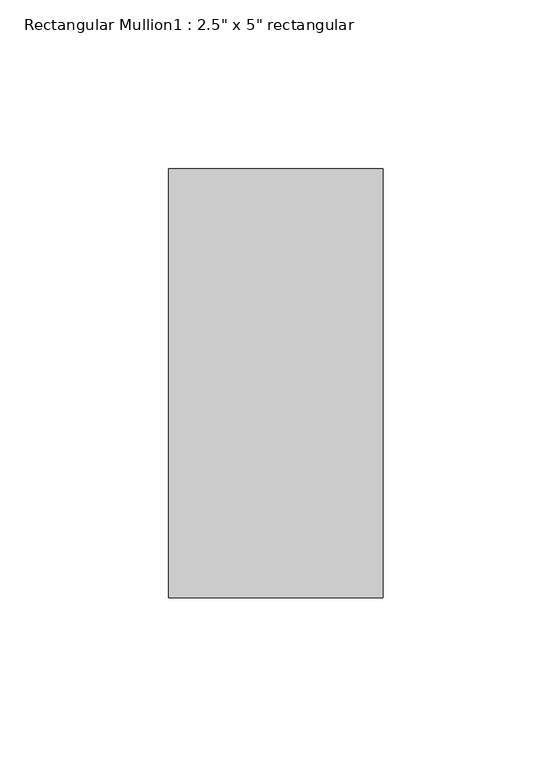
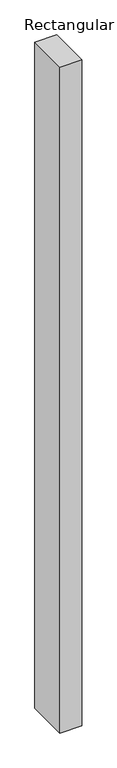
"""IFC4 building model written with IfcOpenShell, lengths in millimetres: member geometry."""

from ifc_helpers import new_model, si_unit, frame, origin, place, context, project, spatial, polyline, outline, extrude, source, transform, mapped, element, save


def member_08becc7e(model_context):
    return source(origin(), model_context, "Body", "SweptSolid", [
        extrude(outline(polyline([(0.0, 63.5), (0.0, -63.5), (-63.5, -63.5), (-63.5, 63.5), (0.0, 63.5)])), frame((0.0, 0.0, -2059.94), z_axis=(0.0, 0.0, 1.0), x_axis=(1.0, 0.0, 0.0)), (0.0, 0.0, 1.0), 2059.94),
    ])


if __name__ == "__main__":
    model = new_model("IFC4")
    model_context = context("Model", 3, world=origin())
    ifc_project = project(units=[si_unit("LENGTHUNIT", "METRE", prefix="MILLI")], contexts=[model_context])
    site = spatial("IfcSite", under=ifc_project)
    building = spatial("IfcBuilding", under=site)
    placement = place(None, origin())
    member_shape = member_08becc7e(model_context)
    element("IfcMember", 1, ObjectType="Rectangular Mullion1 : 2.5\" x 5\" rectangular", at=placement, inside=building, context=model_context, shape_type="MappedRepresentation", body=[
        mapped(member_shape, transform((0.0, 0.0, 0.0), x_axis=(1.0, 0.0, 0.0), y_axis=(0.0, 1.0, 0.0), z_axis=(0.0, 0.0, 1.0))),
    ])
    save(model, "model.ifc")
